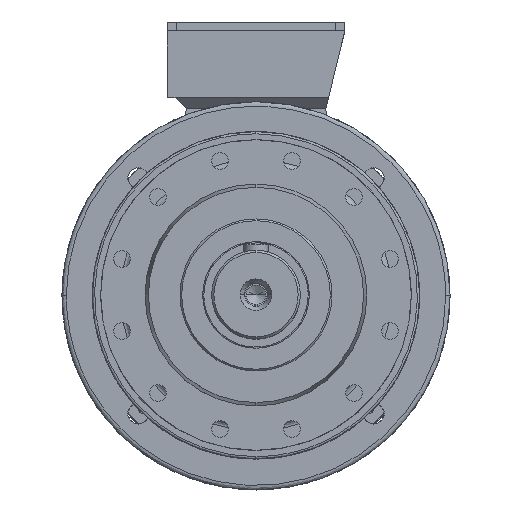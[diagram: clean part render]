
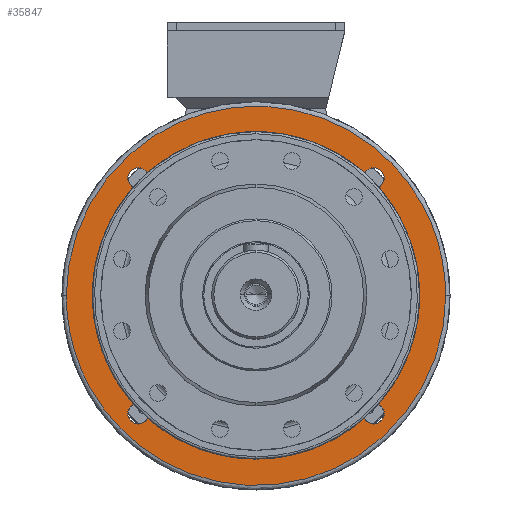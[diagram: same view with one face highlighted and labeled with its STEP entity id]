
A CAD part, top view. The second image highlights one B-rep face of the part: STEP entity #35847.
In plain terms, the highlighted planar face has unit normal (0, 0, 1).
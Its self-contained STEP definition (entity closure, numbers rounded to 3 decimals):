
#6001 = EDGE_CURVE ( 'NONE', #25853, #25860, #133048, .T. ) ;
#6103 = EDGE_CURVE ( 'NONE', #26438, #26328, #117639, .T. ) ;
#6170 = EDGE_CURVE ( 'NONE', #26390, #26229, #117733, .T. ) ;
#6185 = EDGE_CURVE ( 'NONE', #26233, #26282, #117739, .T. ) ;
#6186 = EDGE_CURVE ( 'NONE', #26412, #26418, #117744, .T. ) ;
#6208 = EDGE_CURVE ( 'NONE', #26254, #26339, #117820, .T. ) ;
#13074 = AXIS2_PLACEMENT_3D ( 'NONE', #24516, #24614, #24578 ) ;
#20880 = AXIS2_PLACEMENT_3D ( 'NONE', #114333, #114325, #114329 ) ;
#21015 = AXIS2_PLACEMENT_3D ( 'NONE', #114778, #114780, #114716 ) ;
#21171 = AXIS2_PLACEMENT_3D ( 'NONE', #114966, #114968, #114945 ) ;
#21250 = AXIS2_PLACEMENT_3D ( 'NONE', #115060, #115028, #115055 ) ;
#21262 = AXIS2_PLACEMENT_3D ( 'NONE', #114952, #115000, #114991 ) ;
#24470 = PLANE ( 'NONE',  #13074 ) ;
#24516 = CARTESIAN_POINT ( 'NONE',  ( 0., 122., -116.5 ) ) ;
#24578 = DIRECTION ( 'NONE',  ( 1., 0., 0. ) ) ;
#24614 = DIRECTION ( 'NONE',  ( 0., 0., 1. ) ) ;
#25853 = VERTEX_POINT ( 'NONE', #95140 ) ;
#25860 = VERTEX_POINT ( 'NONE', #95146 ) ;
#26229 = VERTEX_POINT ( 'NONE', #95311 ) ;
#26233 = VERTEX_POINT ( 'NONE', #95312 ) ;
#26254 = VERTEX_POINT ( 'NONE', #95346 ) ;
#26282 = VERTEX_POINT ( 'NONE', #95300 ) ;
#26328 = VERTEX_POINT ( 'NONE', #95417 ) ;
#26339 = VERTEX_POINT ( 'NONE', #95368 ) ;
#26390 = VERTEX_POINT ( 'NONE', #95361 ) ;
#26412 = VERTEX_POINT ( 'NONE', #95393 ) ;
#26418 = VERTEX_POINT ( 'NONE', #95384 ) ;
#26438 = VERTEX_POINT ( 'NONE', #95402 ) ;
#33417 = DIRECTION ( 'NONE',  ( 0., 1., 0. ) ) ;
#33428 = DIRECTION ( 'NONE',  ( -1., 0., 0. ) ) ;
#33432 = CARTESIAN_POINT ( 'NONE',  ( 0., 0., -116.5 ) ) ;
#33443 = CARTESIAN_POINT ( 'NONE',  ( 106.066, -106.066, -116.5 ) ) ;
#33456 = DIRECTION ( 'NONE',  ( 0., 0., -1. ) ) ;
#33458 = DIRECTION ( 'NONE',  ( 0., 0., -1. ) ) ;
#33725 = CARTESIAN_POINT ( 'NONE',  ( -171., 342., -116.5 ) ) ;
#33726 = DIRECTION ( 'NONE',  ( -1., 0., 0. ) ) ;
#33727 = CARTESIAN_POINT ( 'NONE',  ( 171., 0., -116.5 ) ) ;
#33732 = DIRECTION ( 'NONE',  ( 0., 0., -1. ) ) ;
#33733 = CARTESIAN_POINT ( 'NONE',  ( -106.066, 106.066, -116.5 ) ) ;
#33734 = CARTESIAN_POINT ( 'NONE',  ( 106.066, 106.066, -116.5 ) ) ;
#33735 = DIRECTION ( 'NONE',  ( -1., 0., 0. ) ) ;
#33744 = DIRECTION ( 'NONE',  ( 0., 0., -1. ) ) ;
#33749 = CARTESIAN_POINT ( 'NONE',  ( -171., 0., -116.5 ) ) ;
#33753 = DIRECTION ( 'NONE',  ( 0., 0., -1. ) ) ;
#33755 = CARTESIAN_POINT ( 'NONE',  ( -106.066, -106.066, -116.5 ) ) ;
#33767 = CARTESIAN_POINT ( 'NONE',  ( 171., 342., -116.5 ) ) ;
#33770 = DIRECTION ( 'NONE',  ( 0., 1., 0. ) ) ;
#35847 = ADVANCED_FACE ( 'NONE', ( #136144, #136190, #136315, #136236, #136286, #136292 ), #24470, .T. ) ;
#42399 =( BOUNDED_CURVE ( )  B_SPLINE_CURVE ( 3, ( #33749, #33725, #33767, #33727 ),
 .UNSPECIFIED., .F., .F. ) 
 B_SPLINE_CURVE_WITH_KNOTS ( ( 4, 4 ),
 ( 0.5, 1. ),
 .UNSPECIFIED. ) 
 CURVE ( )  GEOMETRIC_REPRESENTATION_ITEM ( )  RATIONAL_B_SPLINE_CURVE ( ( 1., 0.333, 0.333, 1. ) ) 
 REPRESENTATION_ITEM ( '' )  );
#66051 = ORIENTED_EDGE ( 'NONE', *, *, #6186, .T. ) ;
#66206 = ORIENTED_EDGE ( 'NONE', *, *, #6185, .T. ) ;
#66236 = ORIENTED_EDGE ( 'NONE', *, *, #70180, .T. ) ;
#66248 = ORIENTED_EDGE ( 'NONE', *, *, #70131, .T. ) ;
#66282 = ORIENTED_EDGE ( 'NONE', *, *, #6208, .T. ) ;
#66285 = ORIENTED_EDGE ( 'NONE', *, *, #70185, .T. ) ;
#66332 = ORIENTED_EDGE ( 'NONE', *, *, #6103, .T. ) ;
#66335 = ORIENTED_EDGE ( 'NONE', *, *, #70134, .T. ) ;
#66337 = ORIENTED_EDGE ( 'NONE', *, *, #6001, .F. ) ;
#66342 = ORIENTED_EDGE ( 'NONE', *, *, #6170, .T. ) ;
#66365 = ORIENTED_EDGE ( 'NONE', *, *, #70182, .T. ) ;
#66367 = ORIENTED_EDGE ( 'NONE', *, *, #70183, .F. ) ;
#70131 = EDGE_CURVE ( 'NONE', #26339, #26254, #119472, .T. ) ;
#70134 = EDGE_CURVE ( 'NONE', #26229, #26390, #119574, .T. ) ;
#70180 = EDGE_CURVE ( 'NONE', #26328, #26438, #119644, .T. ) ;
#70182 = EDGE_CURVE ( 'NONE', #26282, #26233, #119612, .T. ) ;
#70183 = EDGE_CURVE ( 'NONE', #25860, #25853, #42399, .T. ) ;
#70185 = EDGE_CURVE ( 'NONE', #26418, #26412, #119597, .T. ) ;
#92882 = EDGE_LOOP ( 'NONE', ( #66365, #66206 ) ) ;
#92891 = EDGE_LOOP ( 'NONE', ( #66342, #66335 ) ) ;
#92903 = EDGE_LOOP ( 'NONE', ( #66236, #66332 ) ) ;
#92928 = EDGE_LOOP ( 'NONE', ( #66337, #66367 ) ) ;
#93686 = EDGE_LOOP ( 'NONE', ( #66248, #66282 ) ) ;
#93724 = EDGE_LOOP ( 'NONE', ( #66285, #66051 ) ) ;
#95140 = CARTESIAN_POINT ( 'NONE',  ( 171., 0., -116.5 ) ) ;
#95146 = CARTESIAN_POINT ( 'NONE',  ( -171., 0., -116.5 ) ) ;
#95300 = CARTESIAN_POINT ( 'NONE',  ( -115.566, -106.066, -116.5 ) ) ;
#95311 = CARTESIAN_POINT ( 'NONE',  ( 122., 0., -116.5 ) ) ;
#95312 = CARTESIAN_POINT ( 'NONE',  ( -96.566, -106.066, -116.5 ) ) ;
#95346 = CARTESIAN_POINT ( 'NONE',  ( 106.066, -115.566, -116.5 ) ) ;
#95361 = CARTESIAN_POINT ( 'NONE',  ( -122., 0., -116.5 ) ) ;
#95368 = CARTESIAN_POINT ( 'NONE',  ( 106.066, -96.566, -116.5 ) ) ;
#95384 = CARTESIAN_POINT ( 'NONE',  ( 96.566, 106.066, -116.5 ) ) ;
#95393 = CARTESIAN_POINT ( 'NONE',  ( 115.566, 106.066, -116.5 ) ) ;
#95402 = CARTESIAN_POINT ( 'NONE',  ( -106.066, 96.566, -116.5 ) ) ;
#95417 = CARTESIAN_POINT ( 'NONE',  ( -106.066, 115.566, -116.5 ) ) ;
#113327 = CARTESIAN_POINT ( 'NONE',  ( -171., 0., -116.5 ) ) ;
#113329 = CARTESIAN_POINT ( 'NONE',  ( 171., -342., -116.5 ) ) ;
#113354 = CARTESIAN_POINT ( 'NONE',  ( -171., -342., -116.5 ) ) ;
#113356 = CARTESIAN_POINT ( 'NONE',  ( 171., 0., -116.5 ) ) ;
#114325 = DIRECTION ( 'NONE',  ( 0., 0., -1. ) ) ;
#114329 = DIRECTION ( 'NONE',  ( 0., 1., 0. ) ) ;
#114333 = CARTESIAN_POINT ( 'NONE',  ( -106.066, 106.066, -116.5 ) ) ;
#114716 = DIRECTION ( 'NONE',  ( -1., 0., 0. ) ) ;
#114778 = CARTESIAN_POINT ( 'NONE',  ( 0., 0., -116.5 ) ) ;
#114780 = DIRECTION ( 'NONE',  ( 0., 0., -1. ) ) ;
#114945 = DIRECTION ( 'NONE',  ( -1., 0., 0. ) ) ;
#114952 = CARTESIAN_POINT ( 'NONE',  ( 106.066, 106.066, -116.5 ) ) ;
#114966 = CARTESIAN_POINT ( 'NONE',  ( -106.066, -106.066, -116.5 ) ) ;
#114968 = DIRECTION ( 'NONE',  ( 0., 0., -1. ) ) ;
#114991 = DIRECTION ( 'NONE',  ( -1., 0., 0. ) ) ;
#115000 = DIRECTION ( 'NONE',  ( 0., 0., -1. ) ) ;
#115028 = DIRECTION ( 'NONE',  ( 0., 0., -1. ) ) ;
#115055 = DIRECTION ( 'NONE',  ( 0., 1., 0. ) ) ;
#115060 = CARTESIAN_POINT ( 'NONE',  ( 106.066, -106.066, -116.5 ) ) ;
#117639 = CIRCLE ( 'NONE', #20880, 9.5 ) ;
#117733 = CIRCLE ( 'NONE', #21015, 122. ) ;
#117739 = CIRCLE ( 'NONE', #21171, 9.5 ) ;
#117744 = CIRCLE ( 'NONE', #21262, 9.5 ) ;
#117820 = CIRCLE ( 'NONE', #21250, 9.5 ) ;
#118836 = AXIS2_PLACEMENT_3D ( 'NONE', #33733, #33753, #33770 ) ;
#118842 = AXIS2_PLACEMENT_3D ( 'NONE', #33755, #33744, #33726 ) ;
#118858 = AXIS2_PLACEMENT_3D ( 'NONE', #33734, #33732, #33735 ) ;
#118878 = AXIS2_PLACEMENT_3D ( 'NONE', #33432, #33458, #33428 ) ;
#118889 = AXIS2_PLACEMENT_3D ( 'NONE', #33443, #33456, #33417 ) ;
#119472 = CIRCLE ( 'NONE', #118889, 9.5 ) ;
#119574 = CIRCLE ( 'NONE', #118878, 122. ) ;
#119597 = CIRCLE ( 'NONE', #118858, 9.5 ) ;
#119612 = CIRCLE ( 'NONE', #118842, 9.5 ) ;
#119644 = CIRCLE ( 'NONE', #118836, 9.5 ) ;
#133048 =( BOUNDED_CURVE ( )  B_SPLINE_CURVE ( 3, ( #113356, #113329, #113354, #113327 ),
 .UNSPECIFIED., .F., .F. ) 
 B_SPLINE_CURVE_WITH_KNOTS ( ( 4, 4 ),
 ( 0., 0.5 ),
 .UNSPECIFIED. ) 
 CURVE ( )  GEOMETRIC_REPRESENTATION_ITEM ( )  RATIONAL_B_SPLINE_CURVE ( ( 1., 0.333, 0.333, 1. ) ) 
 REPRESENTATION_ITEM ( '' )  );
#136144 = FACE_OUTER_BOUND ( 'NONE', #92928, .T. ) ;
#136190 = FACE_BOUND ( 'NONE', #92891, .T. ) ;
#136236 = FACE_BOUND ( 'NONE', #92882, .T. ) ;
#136286 = FACE_BOUND ( 'NONE', #93686, .T. ) ;
#136292 = FACE_BOUND ( 'NONE', #93724, .T. ) ;
#136315 = FACE_BOUND ( 'NONE', #92903, .T. ) ;
